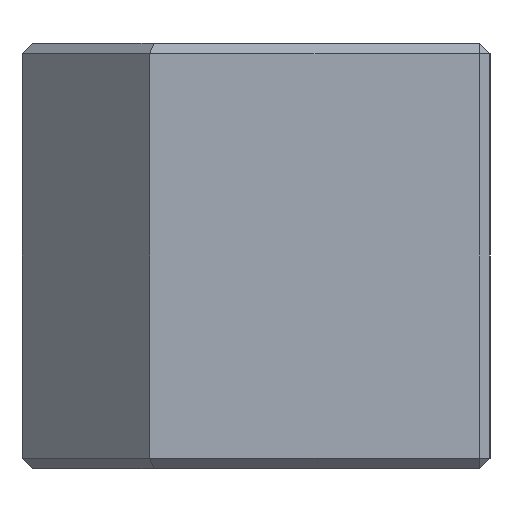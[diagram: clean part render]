
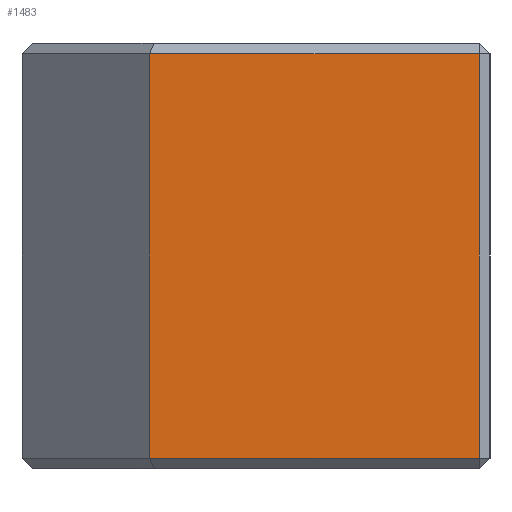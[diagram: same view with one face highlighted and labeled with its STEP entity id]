
A CAD part, left-side view. The second image highlights one B-rep face of the part: STEP entity #1483.
In plain terms, the highlighted planar face has unit normal (-1, 0, 0).
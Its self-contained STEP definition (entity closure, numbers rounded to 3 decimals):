
#105 = CARTESIAN_POINT ( 'NONE',  ( -31., 10., -1. ) ) ;
#140 = LINE ( 'NONE', #1196, #1009 ) ;
#159 = VERTEX_POINT ( 'NONE', #105 ) ;
#207 = EDGE_CURVE ( 'NONE', #1512, #159, #497, .T. ) ;
#249 = EDGE_CURVE ( 'NONE', #589, #1512, #140, .T. ) ;
#277 = LINE ( 'NONE', #744, #911 ) ;
#316 = EDGE_CURVE ( 'NONE', #159, #1181, #831, .T. ) ;
#325 = EDGE_LOOP ( 'NONE', ( #401, #376, #770, #1433 ) ) ;
#326 = CARTESIAN_POINT ( 'NONE',  ( -31., -21., -39. ) ) ;
#376 = ORIENTED_EDGE ( 'NONE', *, *, #207, .F. ) ;
#401 = ORIENTED_EDGE ( 'NONE', *, *, #316, .F. ) ;
#432 = EDGE_CURVE ( 'NONE', #1181, #589, #277, .T. ) ;
#435 = DIRECTION ( 'NONE',  ( -1., 0., 0. ) ) ;
#497 = LINE ( 'NONE', #1319, #544 ) ;
#515 = DIRECTION ( 'NONE',  ( 0., 0., -1. ) ) ;
#544 = VECTOR ( 'NONE', #858, 1000. ) ;
#551 = FACE_OUTER_BOUND ( 'NONE', #325, .T. ) ;
#588 = CARTESIAN_POINT ( 'NONE',  ( -31., -21., -1. ) ) ;
#589 = VERTEX_POINT ( 'NONE', #326 ) ;
#669 = VECTOR ( 'NONE', #865, 1000. ) ;
#673 = CARTESIAN_POINT ( 'NONE',  ( -31., -22., 0. ) ) ;
#744 = CARTESIAN_POINT ( 'NONE',  ( -31., -21., 0. ) ) ;
#770 = ORIENTED_EDGE ( 'NONE', *, *, #249, .F. ) ;
#831 = LINE ( 'NONE', #1247, #669 ) ;
#858 = DIRECTION ( 'NONE',  ( 0., 0., 1. ) ) ;
#865 = DIRECTION ( 'NONE',  ( 0., -1., 0. ) ) ;
#911 = VECTOR ( 'NONE', #515, 1000. ) ;
#1009 = VECTOR ( 'NONE', #1454, 1000. ) ;
#1053 = DIRECTION ( 'NONE',  ( 0., 0., 1. ) ) ;
#1181 = VERTEX_POINT ( 'NONE', #588 ) ;
#1196 = CARTESIAN_POINT ( 'NONE',  ( -31., -11., -39. ) ) ;
#1222 = AXIS2_PLACEMENT_3D ( 'NONE', #673, #435, #1053 ) ;
#1247 = CARTESIAN_POINT ( 'NONE',  ( -31., -11., -1. ) ) ;
#1319 = CARTESIAN_POINT ( 'NONE',  ( -31., 10., 0. ) ) ;
#1398 = CARTESIAN_POINT ( 'NONE',  ( -31., 10., -39. ) ) ;
#1433 = ORIENTED_EDGE ( 'NONE', *, *, #432, .F. ) ;
#1454 = DIRECTION ( 'NONE',  ( 0., 1., 0. ) ) ;
#1483 = ADVANCED_FACE ( 'NONE', ( #551 ), #1506, .T. ) ;
#1506 = PLANE ( 'NONE',  #1222 ) ;
#1512 = VERTEX_POINT ( 'NONE', #1398 ) ;
